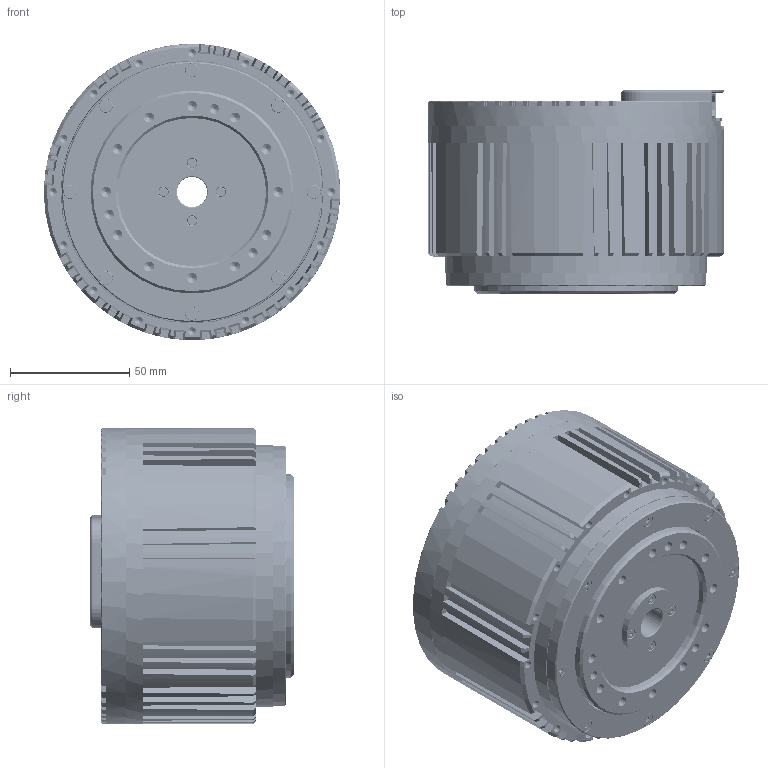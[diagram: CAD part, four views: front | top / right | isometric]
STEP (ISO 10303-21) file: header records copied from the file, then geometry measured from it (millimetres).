
FILE_DESCRIPTION (( 'STEP AP203' ), '1' );
FILE_NAME ('RMD-X12-P20-320 外形图.STEP', '2026-09-20T06:04:22', ( '微软用户' ), ( '微软中国' ), 'SwSTEP 2.0', 'SolidWorks 2020', '' );
FILE_SCHEMA (( 'CONFIG_CONTROL_DESIGN' ));
Length unit declared in the file: millimetre
Products named in the file (11): XMT.112.006-______-B_Default________.STEP.STEP; 8MT.013.035-________-B_Default________.STEP.STEP; RMD-X12-P20-320 俋倛芞; X12-____-______.STEP.STEP; 8MT.013.042-____-C_Default________.STEP.STEP; X12X15______.STEP; XMT.109.007-________ D_Default________.STEP.STEP; XMT.110.007-____________-B_Default________.STEP.STEP; ______________M2X4.STEP.STEP; ______________M3X10.STEP.STEP; GB70.3 囀鞠褒麥芛蹟隊M3X16
Assembly tree (23 placements, depth 2):
  RMD-X12-P20-320 俋倛芞
    8MT.013.035-________-B_Default________.STEP.STEP
    8MT.013.042-____-C_Default________.STEP.STEP
    XMT.109.007-________ D_Default________.STEP.STEP
    XMT.110.007-____________-B_Default________.STEP.STEP
    XMT.112.006-______-B_Default________.STEP.STEP
    ______________M3X10.STEP.STEP  x8
    ______________M2X4.STEP.STEP  x4
    X12-____-______.STEP.STEP
    X12X15______.STEP
    GB70.3 囀鞠褒麥芛蹟隊M3X16  x4
Bounding box: 124 x 85 x 124 mm (x, y, z)
Volume: 234025.1 mm3; surface area: 186988.9 mm2
Topology: 58 solids, 58 shells, 5204 faces, 14290 edges, 9330 vertices
Faces by surface type: plane 2130, cylinder 2102, bspline 526, cone 416, torus 30
Entity records: 168384 total; most frequent: CARTESIAN_POINT 36892, ORIENTED_EDGE 27456, DIRECTION 25863, EDGE_CURVE 13728, AXIS2_PLACEMENT_3D 9152, VERTEX_POINT 9052, LINE 7559, VECTOR 7559
